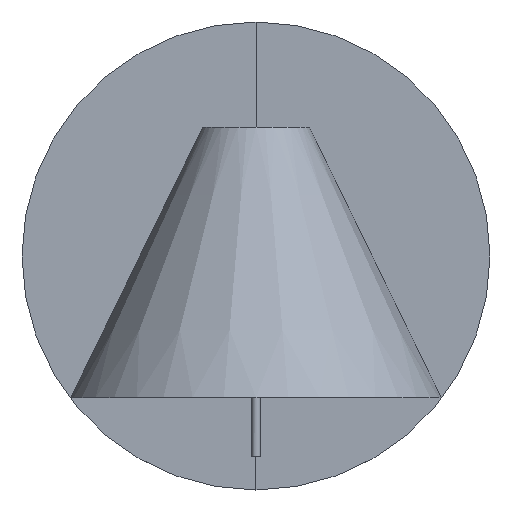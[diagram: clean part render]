
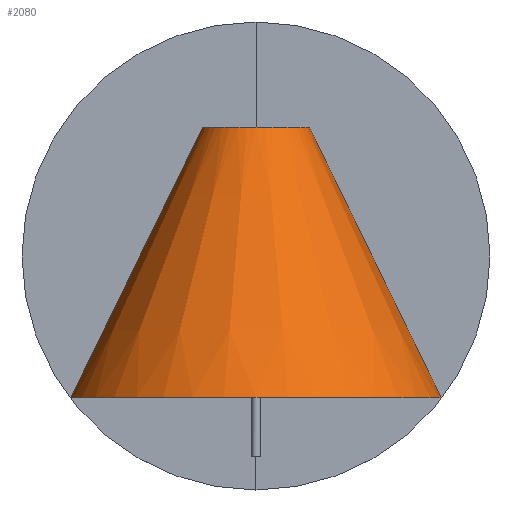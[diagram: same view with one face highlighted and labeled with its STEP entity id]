
A CAD part, top view. The second image highlights one B-rep face of the part: STEP entity #2080.
In plain terms, the highlighted conical face has half-angle 26 degrees and reference radius 29.952 mm.
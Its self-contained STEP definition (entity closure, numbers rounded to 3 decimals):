
#85=CONICAL_SURFACE('',#2227,29.952,0.454);
#169=FACE_OUTER_BOUND('',#297,.T.);
#297=EDGE_LOOP('',(#1473,#1474,#1475,#1476));
#434=LINE('',#3102,#627);
#444=LINE('',#3121,#637);
#627=VECTOR('',#2465,1.);
#637=VECTOR('',#2481,1.);
#820=CIRCLE('',#2226,83.505);
#821=CIRCLE('',#2228,24.002);
#916=VERTEX_POINT('',#3095);
#918=VERTEX_POINT('',#3100);
#923=VERTEX_POINT('',#3118);
#924=VERTEX_POINT('',#3120);
#1116=EDGE_CURVE('',#916,#918,#434,.T.);
#1126=EDGE_CURVE('',#924,#923,#444,.T.);
#1134=EDGE_CURVE('',#918,#924,#820,.T.);
#1135=EDGE_CURVE('',#916,#923,#821,.T.);
#1473=ORIENTED_EDGE('',*,*,#1116,.T.);
#1474=ORIENTED_EDGE('',*,*,#1134,.T.);
#1475=ORIENTED_EDGE('',*,*,#1126,.T.);
#1476=ORIENTED_EDGE('',*,*,#1135,.F.);
#2080=ADVANCED_FACE('',(#169),#85,.T.);
#2226=AXIS2_PLACEMENT_3D('',#3134,#2499,#2500);
#2227=AXIS2_PLACEMENT_3D('',#3135,#2501,#2502);
#2228=AXIS2_PLACEMENT_3D('',#3136,#2503,#2504);
#2465=DIRECTION('',(-0.438,-0.899,0.));
#2481=DIRECTION('',(-0.438,0.899,0.));
#2499=DIRECTION('center_axis',(0.,1.,0.));
#2500=DIRECTION('ref_axis',(0.809,0.,-0.588));
#2501=DIRECTION('center_axis',(0.,-1.,0.));
#2502=DIRECTION('ref_axis',(0.,0.,
1.));
#2503=DIRECTION('center_axis',(0.,1.,0.));
#2504=DIRECTION('ref_axis',(0.809,0.,-0.588));
#3095=CARTESIAN_POINT('',(-24.002,58.,74.518));
#3100=CARTESIAN_POINT('',(-83.505,-64.,74.518));
#3102=CARTESIAN_POINT('',(-24.002,58.,74.518));
#3118=CARTESIAN_POINT('',(24.002,58.,74.518));
#3120=CARTESIAN_POINT('',(83.505,-64.,74.518));
#3121=CARTESIAN_POINT('',(83.505,-64.,74.518));
#3134=CARTESIAN_POINT('Origin',(0.,-64.,
74.518));
#3135=CARTESIAN_POINT('Origin',(0.,45.8,
74.518));
#3136=CARTESIAN_POINT('Origin',(0.,58.,74.518));
